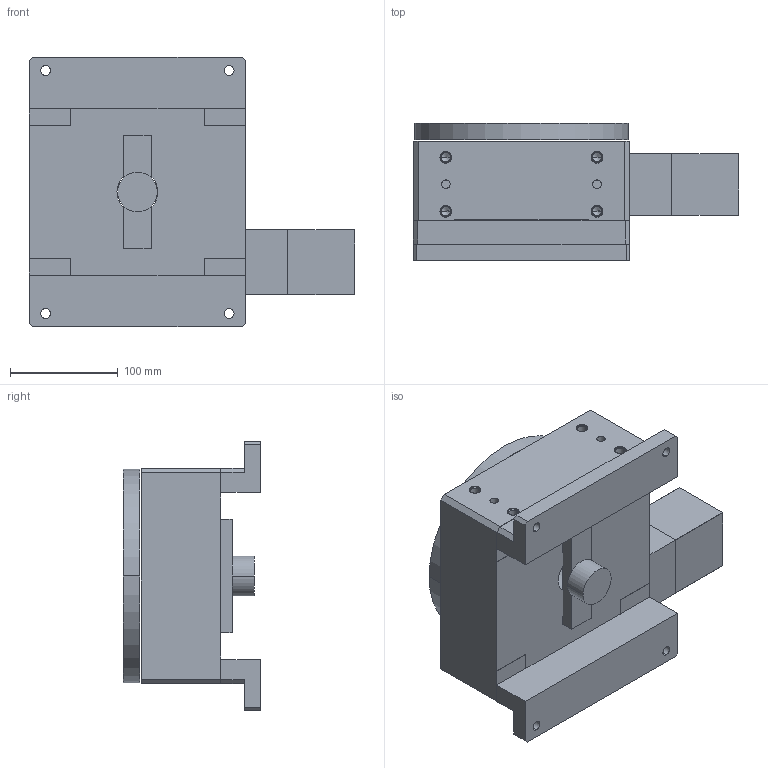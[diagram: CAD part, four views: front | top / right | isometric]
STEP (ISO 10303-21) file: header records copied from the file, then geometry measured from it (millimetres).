
FILE_DESCRIPTION((''),'2;1');
FILE_NAME('R200M7M23E1_ASM','2009-07-02T',('FK20128'),(''),'PRO/ENGINEER BY PARAMETRIC TECHNOLOGY CORPORATION, 2006200','PRO/ENGINEER BY PARAMETRIC TECHNOLOGY CORPORATION, 2006200','');
FILE_SCHEMA(('CONFIG_CONTROL_DESIGN'));
Length unit declared in the file: millimetre
Products named in the file (7): R200M; R200M-M23; R200M-ENCODER-BRKT; R200M-ENCODER-STANDOFF; RXXXM-ENCODER; R200M-E1_ASM; R200M7M23E1_ASM
Assembly tree (7 placements, depth 3):
  R200M7M23E1_ASM
    R200M
    R200M-M23
    R200M-E1_ASM
      R200M-ENCODER-BRKT
      R200M-ENCODER-STANDOFF  x2
      RXXXM-ENCODER
Bounding box: 301.12 x 127 x 250.02 mm (x, y, z)
Volume: 4051761.1 mm3; surface area: 361567.4 mm2
Topology: 7 solids, 27 shells, 308 faces, 758 edges, 494 vertices
Faces by surface type: cylinder 154, plane 112, cone 42
Entity records: 8452 total; most frequent: DIRECTION 1606, CARTESIAN_POINT 1404, ORIENTED_EDGE 1240, EDGE_CURVE 656, AXIS2_PLACEMENT_3D 648, VERTEX_POINT 446, EDGE_LOOP 374, CIRCLE 346
